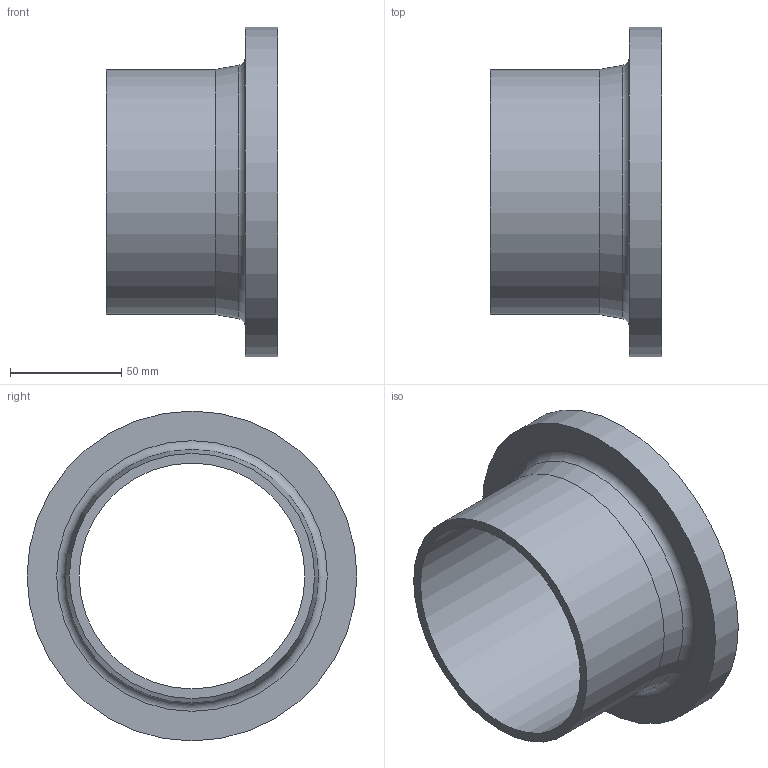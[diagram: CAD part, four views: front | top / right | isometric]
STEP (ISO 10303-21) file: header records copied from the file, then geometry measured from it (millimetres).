
FILE_DESCRIPTION(/* description */ (''),/* implementation_level */ '2;1');
FILE_NAME(/* name */ 'Z:\Geberit\Export\NewStep\367744.stp',/* time_stamp */ '2014-04-02T07:58:13+02:00',/* author */ ('nelson'),/* organization */ (''),/* preprocessor_version */ 'ST-DEVELOPER v15.2',/* originating_system */ 'Autodesk Inventor 2014',/* authorisation */ '');
FILE_SCHEMA (('AUTOMOTIVE_DESIGN { 1 0 10303 214 3 1 1 }'));
Length unit declared in the file: millimetre
Products named in the file (1): 367744
Bounding box: 77 x 148 x 148 mm (x, y, z)
Volume: 226878 mm3; surface area: 71030.9 mm2
Topology: 1 solids, 1 shells, 17 faces, 28 edges, 17 vertices
Faces by surface type: cone 7, plane 6, cylinder 3, torus 1
Full cylindrical faces by diameter (mm): 101.4 x1, 110 x1, 148 x1
Entity records: 386 total; most frequent: DIRECTION 70, CARTESIAN_POINT 52, AXIS2_PLACEMENT_3D 35, EDGE_LOOP 34, ORIENTED_EDGE 34, FACE_BOUND 21, STYLED_ITEM 18, CIRCLE 17
